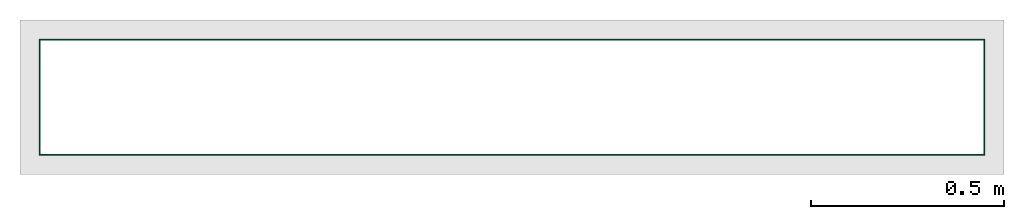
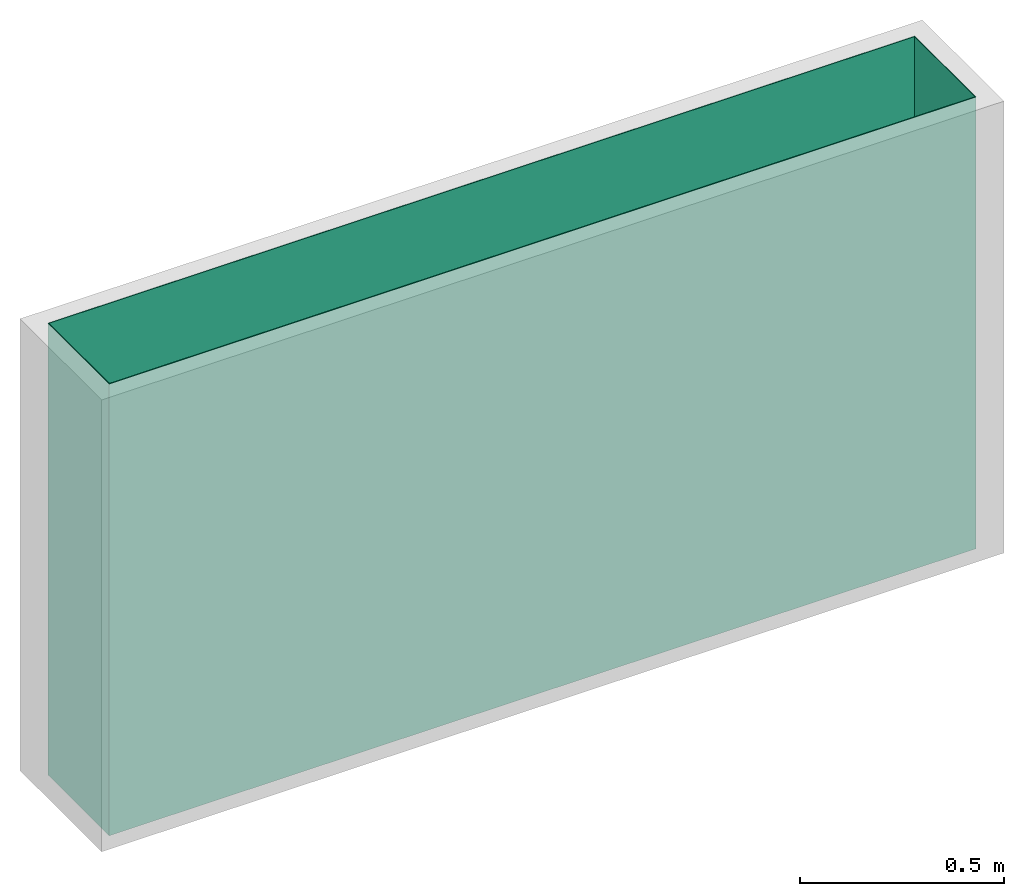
# One storey, part 2 of 2: 1 flow segment.
"""IFC2X3 building model written with IfcOpenShell, lengths in millimetres."""

from ifc_helpers import new_model, entity, si_unit, converted_unit, derived_unit, direction, frame, origin_with_axes, origin_2d_with_axis, place, context, subcontext, project, spatial, hollow_rectangle, extrude, source, transform, mapped, type_object, element, save


model = new_model("IFC2X3")

# Units and contexts
model_context = context("Model", 3, precision=0.01, world=frame((0.0, 4.29681676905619e-09, 0.0)), true_north=direction((4.01073788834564e-13, 1.0)))
plan_context = context("Plan", 3, precision=0.01, world=frame((0.0, 4.29681676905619e-09, 0.0)), true_north=direction((4.01073788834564e-13, 1.0)))
body_context = subcontext(model_context, "Body", "Model", "MODEL_VIEW")
ifc_project = project(units=[converted_unit("PLANEANGLEUNIT", "DEGREE", entity("IfcPositiveLengthMeasure", 0.0174532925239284), si_unit("PLANEANGLEUNIT", "RADIAN"), dimensions=[0, 0, 0, 0, 0, 0, 0]), si_unit("AREAUNIT", "SQUARE_METRE"), si_unit("LENGTHUNIT", "METRE", prefix="MILLI"), si_unit("MASSUNIT", "GRAM", prefix="KILO"), si_unit("POWERUNIT", "WATT"), si_unit("PRESSUREUNIT", "PASCAL"), si_unit("FORCEUNIT", "NEWTON", prefix="KILO"), si_unit("ELECTRICVOLTAGEUNIT", "VOLT"), si_unit("ELECTRICCURRENTUNIT", "AMPERE"), si_unit("THERMODYNAMICTEMPERATUREUNIT", "DEGREE_CELSIUS"), si_unit("TIMEUNIT", "SECOND"), si_unit("VOLUMEUNIT", "CUBIC_METRE"), derived_unit("LINEARVELOCITYUNIT", [(si_unit("LENGTHUNIT", "METRE"), 1), (si_unit("TIMEUNIT", "SECOND"), -1)]), derived_unit("VOLUMETRICFLOWRATEUNIT", [(si_unit("VOLUMEUNIT", "CUBIC_METRE"), 1), (si_unit("TIMEUNIT", "SECOND"), -1)]), derived_unit("THERMALTRANSMITTANCEUNIT", [(si_unit("POWERUNIT", "WATT"), 1), (si_unit("THERMODYNAMICTEMPERATUREUNIT", "KELVIN"), -1), (si_unit("AREAUNIT", "SQUARE_METRE"), -1)]), derived_unit("SOUNDPRESSUREUNIT", [(si_unit("PRESSUREUNIT", "PASCAL"), 1)])], contexts=[model_context, plan_context])

# Site, building, storey
site_placement = place(None, frame((0.0, -4.29681676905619e-09, 0.0), z_axis=(0.0, 0.0, 1.0), x_axis=(1.0, 0.0, 0.0)))
site = spatial("IfcSite", under=ifc_project, at=site_placement, Name="ENGM", CompositionType="ELEMENT")
building_placement = place(site_placement, frame((0.0, 4.29681676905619e-09, 0.0), z_axis=(0.0, 0.0, 1.0), x_axis=(1.0, 0.0, 0.0)))
building = spatial("IfcBuilding", under=site, at=building_placement, Name="TI", CompositionType="ELEMENT")
storey_placement = place(building_placement, frame((0.0, 0.0, 207370.0), z_axis=(0.0, 0.0, 1.0), x_axis=(1.0, 0.0, 0.0)))
storey = spatial("IfcBuildingStorey", under=building, at=storey_placement, Name="Nivå E", CompositionType="ELEMENT", Elevation=207370.0)

# Flow segment
duct_segment_type = type_object("IfcDuctSegmentType", Name="1-REKT", PredefinedType="RIGIDSEGMENT")
shared_shape = source(origin_with_axes(), body_context, "Body", "SweptSolid", [
    extrude(hollow_rectangle(XDim=2450.0, YDim=300.0, WallThickness=2.0, at=origin_2d_with_axis()), frame((0.0, 0.0, 0.0), z_axis=(1.0, 0.0, 0.0), x_axis=(0.0, 1.0, 0.0)), (0.0, 0.0, 1.0), 1350.0),
])
flow_segment_placement = place(storey_placement, frame((600526.86708, 699025.62991, 3679.97521), z_axis=(0.0, 1.0, 0.0), x_axis=(0.0, 0.0, 1.0)))
element("IfcFlowSegment", 1, at=flow_segment_placement, inside=storey, type_object=duct_segment_type, Name="1-REKT", context=body_context, shape_type="MappedRepresentation", body=[
    mapped(shared_shape, transform((0.0, 0.0, 0.0), scale=1.0)),
])

save(model, "model.ifc")
